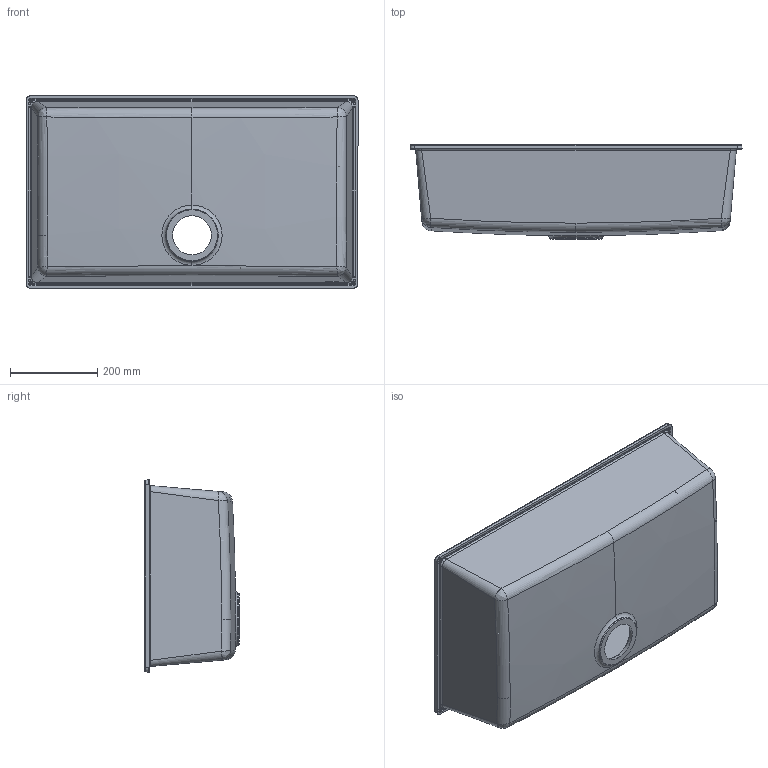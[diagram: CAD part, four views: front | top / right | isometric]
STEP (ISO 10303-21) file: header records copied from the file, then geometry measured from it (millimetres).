
FILE_DESCRIPTION (( 'STEP AP203' ), '1' );
FILE_NAME ('QUADRA_130_SOTTOTOP.STEP', '2018-11-14T15:55:29', ( '' ), ( '' ), 'SwSTEP 2.0', 'SolidWorks 2013', '' );
FILE_SCHEMA (( 'CONFIG_CONTROL_DESIGN' ));
Length unit declared in the file: millimetre
Products named in the file (1): QUADRA_130_SOTTOTOP
Bounding box: 760 x 216.53 x 440 mm (x, y, z)
Volume: 5615938.7 mm3; surface area: 1405545 mm2
Topology: 1 solids, 1 shells, 189 faces, 464 edges, 262 vertices
Faces by surface type: bspline 64, cylinder 50, torus 34, plane 23, sphere 12, cone 6
Entity records: 8800 total; most frequent: CARTESIAN_POINT 4753, ORIENTED_EDGE 896, DIRECTION 776, EDGE_CURVE 448, AXIS2_PLACEMENT_3D 338, VERTEX_POINT 262, CIRCLE 212, EDGE_LOOP 194
